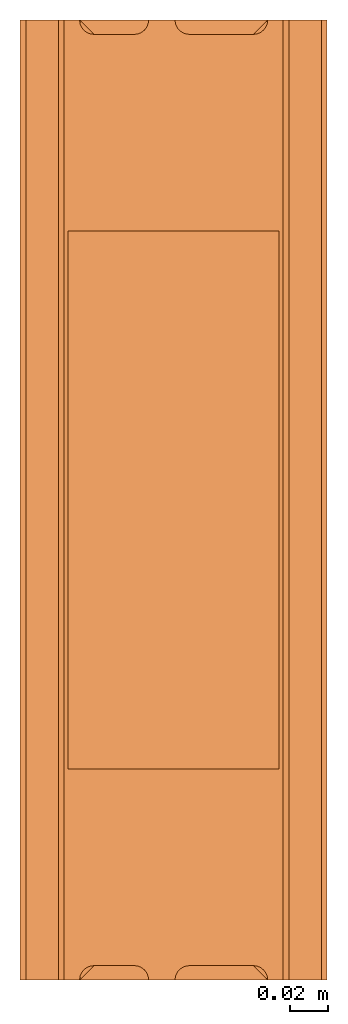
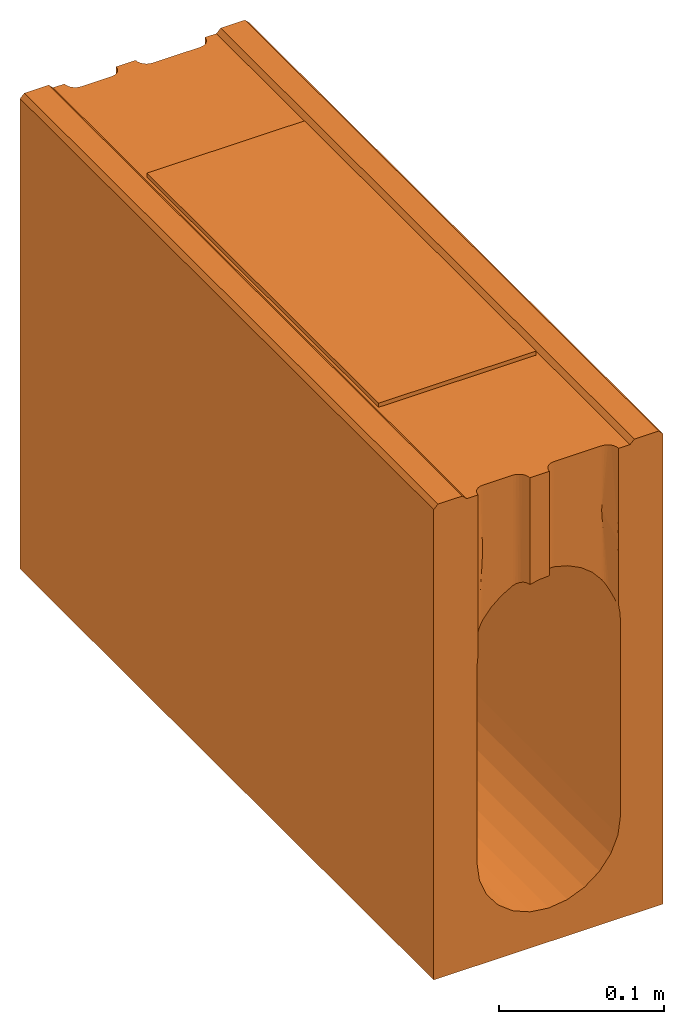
# One storey: 1 proxy.
"""IFC2X3 building model written with IfcOpenShell, lengths in millimetres."""

from ifc_helpers import new_model, entity, si_unit, converted_unit, direction, frame, origin, place, context, subcontext, project, spatial, faceted_brep, source, transform, mapped, material, element, save


model = new_model("IFC2X3")

# Units and contexts
model_context = context("Model", 3, precision=1e-06, world=origin(), true_north=direction((2.0, 6.12303176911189e-17, 1.0)))
context_of_model = context(None, 3, precision=1e-06, world=origin(), true_north=direction((2.0, 6.12303176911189e-17, 1.0)))
body_context = subcontext(model_context, "Body", "Model", "MODEL_VIEW")
ifc_project = project(units=[si_unit("LENGTHUNIT", "METRE", prefix="MILLI"), si_unit("AREAUNIT", "SQUARE_METRE", prefix="MILLI"), si_unit("VOLUMEUNIT", "CUBIC_METRE", prefix="MILLI"), converted_unit("PLANEANGLEUNIT", "DEGREE", entity("IfcRatioMeasure", 0.0174532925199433), si_unit("PLANEANGLEUNIT", "RADIAN"), dimensions=[0, 0, 0, 0, 0, 0, 0]), si_unit("TIMEUNIT", "SECOND")], contexts=[model_context, context_of_model])

# Site, building, storey
site_placement = place(None, origin())
site = spatial("IfcSite", under=ifc_project, at=site_placement, Name="Default", CompositionType="ELEMENT")
building_placement = place(site_placement, origin())
building = spatial("IfcBuilding", under=site, at=building_placement, CompositionType="ELEMENT")
storey_placement = place(building_placement, frame((0.0, 0.0, -300.0)))
storey = spatial("IfcBuildingStorey", under=building, at=storey_placement, Name="T.O. Fnd. Wall", CompositionType="ELEMENT", Elevation=-300.0)

# Proxy
ifc_material = material(Name="Acetal Resin, Black")
shared_shape = source(origin(), body_context, "Body", "Brep", [
    faceted_brep([(-80.0, 0.0, -349.996245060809), (-48.0462913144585, 0.0, -287.937197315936), (-49.7500000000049, 0.0, -274.99624506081), (-43.0512701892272, 0.0, -299.99624506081), (-49.7500000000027, 0.0, -129.996245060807), (-12.6909522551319, 0.0, -323.292536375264), (-24.7500000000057, 0.0, -318.297515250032), (-35.1053390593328, 0.0, -310.351584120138), (0.249999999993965, 0.0, -324.996245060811), (80.0, 0.0, -349.996245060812), (-57.0, 0.0, -3.0), (-60.0, 0.0, 0.0), (-80.0, 0.0, -3.0), (-49.0, 0.0, -121.368528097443), (-77.0, 0.0, 0.0), (-49.5602801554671, 0.0, -125.644694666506), (-49.0, 0.0, -73.5563934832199), (-49.0, 0.0, -3.0), (13.1909522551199, 0.0, -323.292536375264), (35.6053390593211, 0.0, -310.351584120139), (25.2499999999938, 0.0, -318.297515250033), (43.5512701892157, 0.0, -299.996245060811), (48.5462913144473, 0.0, -287.937197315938), (50.249999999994, 0.0, -274.996245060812), (50.2499999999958, 0.0, -129.996245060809), (80.0, 0.0, -3.00030384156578), (49.0, 0.0, -118.88600203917), (49.9333247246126, 0.0, -124.377771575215), (57.0, 0.0, -3.0), (49.0, 0.0, -3.0), (49.0, 0.0, -71.0738683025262), (76.9996961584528, 0.0, 0.0), (60.0, 0.0, 0.0), (0.736679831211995, 500.0, -3.0), (0.736679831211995, 500.0, -79.998613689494), (-6.2125652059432, 500.0, -80.4156515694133), (-13.0, 500.0, -81.7838244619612), (-13.0, 500.0, -3.0), (-13.0, 0.0, -3.0), (-13.0, 0.0, -81.7838244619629), (-6.20548197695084, 0.0, -80.4147288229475), (0.736679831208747, 0.0, -79.9986136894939), (0.736679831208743, 0.0, -3.0), (80.0, 500.0, -349.996245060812), (48.5462913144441, 500.0, -287.937197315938), (50.2499999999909, 500.0, -274.996245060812), (43.5512701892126, 500.0, -299.996245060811), (50.249999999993, 500.0, -129.996245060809), (13.1909522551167, 500.0, -323.292536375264), (25.2499999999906, 500.0, -318.297515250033), (35.605339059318, 500.0, -310.351584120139), (0.249999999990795, 500.0, -324.996245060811), (-80.0, 500.0, -349.996245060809), (57.0, 500.0, -3.0), (76.9996961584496, 500.0, 0.0), (80.0, 500.0, -3.00030384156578), (49.0, 500.0, -118.886002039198), (60.0, 500.0, 0.0), (49.9333606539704, 500.0, -124.378089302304), (49.0, 500.0, -71.073866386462), (49.0, 500.0, -3.0), (-12.6909522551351, 500.0, -323.292536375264), (-35.105339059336, 500.0, -310.351584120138), (-24.7500000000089, 500.0, -318.297515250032), (-43.0512701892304, 500.0, -299.99624506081), (-48.0462913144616, 500.0, -287.937197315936), (-49.7500000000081, 500.0, -274.99624506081), (-49.7500000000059, 500.0, -129.996245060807), (-80.0, 500.0, -3.0), (-49.0, 500.0, -121.368528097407), (-49.5600960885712, 500.0, -125.64258824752), (-57.0, 500.0, -3.0), (-49.0, 500.0, -3.0), (-49.0, 500.0, -73.5563950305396), (-60.0, 500.0, 0.0), (-77.0, 500.0, 0.0), (26.4999999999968, 297.631397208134, -349.996245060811), (13.2350474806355, 303.125920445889, -349.996245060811), (37.8908729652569, 288.89087296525, -349.996245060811), (-1.0, 305.0, -349.99624506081), (54.0, 250.0, -349.996245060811), (52.1259204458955, 264.235047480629, -349.996245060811), (46.6313972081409, 277.49999999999, -349.996245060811), (-15.2350474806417, 303.125920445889, -349.99624506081), (-28.5000000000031, 297.631397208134, -349.99624506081), (-39.8908729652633, 288.890872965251, -349.99624506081), (-48.6313972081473, 277.499999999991, -349.99624506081), (-54.125920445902, 264.235047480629, -349.99624506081), (-56.0, 250.0, -349.99624506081), (46.6313972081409, 222.49999999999, -349.996245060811), (52.1259204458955, 235.764952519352, -349.996245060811), (37.8908729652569, 211.10912703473, -349.996245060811), (26.4999999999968, 202.368602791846, -349.996245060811), (13.2350474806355, 196.874079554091, -349.996245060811), (-1.0, 195.0, -349.99624506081), (-54.125920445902, 235.764952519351, -349.99624506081), (-48.6313972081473, 222.49999999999, -349.99624506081), (-28.5000000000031, 202.368602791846, -349.99624506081), (-15.2350474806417, 196.874079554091, -349.99624506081), (-39.8908729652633, 211.10912703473, -349.99624506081), (48.5987189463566, 497.579630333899, -117.252565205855), (48.5987189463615, 2.42036966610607, -117.252565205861), (47.8724699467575, 496.045050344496, -114.761404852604), (47.8724699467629, 3.95494965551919, -114.761404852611), (46.955393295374, 494.853284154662, -112.146700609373), (46.9553932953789, 5.14671584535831, -112.146700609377), (41.5000000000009, 492.500000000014, -101.739608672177), (43.1259934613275, 492.678378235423, -104.27370271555), (43.1259934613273, 7.32162176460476, -104.273702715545), (41.4999999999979, 7.50000000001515, -101.739608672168), (44.5814205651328, 493.162248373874, -106.872120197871), (44.5814205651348, 6.83775162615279, -106.872120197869), (45.8581398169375, 493.89618010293, -109.504842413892), (45.8581398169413, 6.10381989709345, -109.504842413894), (2.38225354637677, 495.312176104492, -80.0417308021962), (3.57474107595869, 494.12494025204, -80.1069065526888), (3.57474107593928, 5.87505974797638, -80.1069065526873), (2.38225354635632, 4.68782389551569, -80.0417308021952), (0.925928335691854, 498.325809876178, -80.0008140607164), (0.925928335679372, 1.6741901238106, -80.0008140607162), (1.48394545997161, 496.736477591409, -80.011473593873), (1.4839454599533, 3.26352240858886, -80.0114735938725), (27.033943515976, 492.500000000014, -87.7751559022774), (34.9761551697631, 492.500000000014, -94.0227249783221), (34.976155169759, 7.50000000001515, -94.0227249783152), (27.0339435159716, 7.50000000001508, -87.7751559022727), (17.9977594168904, 492.500000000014, -83.2520792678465), (17.9977594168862, 7.50000000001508, -83.2520792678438), (4.99933161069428, 493.234678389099, -80.222317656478), (6.58108774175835, 492.685014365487, -80.3986914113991), (6.58108774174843, 7.31498563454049, -80.3986914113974), (4.99933161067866, 6.76532161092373, -80.2223176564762), (8.2366798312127, 492.500000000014, -80.6382371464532), (8.23667983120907, 7.50000000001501, -80.6382371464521), (-13.7910659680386, 496.647358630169, -82.008241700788), (-13.2013115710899, 498.273979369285, -81.8396025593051), (-13.2013115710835, 1.72602063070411, -81.8396025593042), (-13.7910659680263, 3.35264136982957, -82.0082417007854), (-14.7280173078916, 495.2110318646, -82.2923773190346), (-14.7280173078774, 4.78896813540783, -82.2923773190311), (-17.3714847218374, 493.183667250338, -83.2043304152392), (-15.947929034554, 494.03940859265, -82.6926818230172), (-15.9479290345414, 5.9605914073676, -82.6926818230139), (-17.3714847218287, 6.81633274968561, -83.2043304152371), (-28.5845620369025, 492.500000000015, -89.1481357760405), (-20.499999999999, 492.500000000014, -84.5051745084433), (-20.5000000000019, 7.50000000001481, -84.505174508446), (-28.5845620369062, 7.50000000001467, -89.1481357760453), (-18.9150888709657, 492.669375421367, -83.8150869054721), (-18.9150888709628, 7.33062457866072, -83.8150869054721), (-48.6094823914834, 497.611431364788, -119.37781860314), (-47.9237873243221, 496.128959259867, -116.606464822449), (-47.9237873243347, 3.87104074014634, -116.606464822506), (-48.6094823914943, 2.38856863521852, -119.377818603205), (-47.0369451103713, 494.941122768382, -113.749866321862), (-47.0369451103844, 5.05887723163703, -113.749866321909), (-43.1807877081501, 492.690762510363, -105.221930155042), (-41.4999999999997, 492.500000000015, -102.483747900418), (-41.5000000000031, 7.50000000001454, -102.483747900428), (-43.1807877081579, 7.30923748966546, -105.221930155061), (-35.6666359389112, 492.500000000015, -95.2112588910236), (-35.666635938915, 7.50000000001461, -95.2112588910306), (-45.9520376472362, 493.964325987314, -110.88154607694), (-45.9520376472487, 6.03567401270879, -110.881546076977), (-44.666963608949, 493.201445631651, -108.031127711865), (-44.6669636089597, 6.79855436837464, -108.031127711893), (-48.7444436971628, 498.058857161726, -3.0), (-47.9951905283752, 496.250000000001, -3.0), (-13.2555563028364, 498.058857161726, -3.0), (-14.004809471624, 496.25, -3.0), (0.992236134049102, 498.058857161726, -3.0), (-46.8033008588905, 494.696699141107, -3.0), (-45.249999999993, 493.504809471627, -3.0), (-41.5000000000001, 492.500000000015, -3.0), (-43.4411428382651, 492.755556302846, -3.0), (-43.4411428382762, 7.24444369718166, -3.0), (-41.5000000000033, 7.50000000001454, -3.0), (-45.2500000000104, 6.49519052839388, -3.0), (-15.1966991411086, 494.696699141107, -3.0), (-16.7500000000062, 493.504809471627, -3.0), (2.93337897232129, 494.696699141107, -3.0), (1.74148930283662, 496.25, -3.0), (6.29553699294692, 492.755556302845, -3.0), (-18.5588571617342, 492.755556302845, -3.0), (-20.4999999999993, 492.500000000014, -3.0), (8.23667983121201, 492.500000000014, -3.0), (4.48667983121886, 493.504809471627, -3.0), (-20.5000000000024, 7.50000000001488, -3.0), (48.7444436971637, 498.058857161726, -3.0), (47.9951905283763, 496.25, -3.0), (46.8033008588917, 494.696699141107, -3.0), (45.2499999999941, 493.504809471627, -3.0), (43.4411428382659, 492.755556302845, -3.0), (41.5000000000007, 492.500000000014, -3.0), (43.4411428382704, 7.24444369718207, -3.0), (45.2500000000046, 6.49519052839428, -3.0), (41.4999999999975, 7.50000000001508, -3.0), (8.23667983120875, 7.50000000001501, -3.0), (-18.5588571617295, 7.2444436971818, -3.0), (6.29553699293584, 7.2444436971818, -3.0), (-16.7499999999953, 6.49519052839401, -3.0), (-15.1966991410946, 5.30330085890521, -3.0), (2.93337897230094, 5.30330085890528, -3.0), (4.48667983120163, 6.49519052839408, -3.0), (-48.7444436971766, 1.94114283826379, -3.0), (-47.9951905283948, 3.75000000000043, -3.0), (-46.8033008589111, 5.30330085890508, -3.0), (-13.2555563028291, 1.94114283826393, -3.0), (0.992236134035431, 1.941142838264, -3.0), (-14.0048094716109, 3.75000000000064, -3.0), (1.74148930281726, 3.7500000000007, -3.0), (47.995190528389, 3.75000000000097, -3.0), (48.7444436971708, 1.94114283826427, -3.0), (46.8033008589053, 5.30330085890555, -3.0), (41.5000000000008, 492.500000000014, -50.8121337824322), (-41.5000000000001, 492.500000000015, -50.8121374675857), (41.4999999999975, 7.50000000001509, -50.8121350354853), (-41.5000000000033, 7.50000000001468, -50.812134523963), (-39.8908729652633, 288.89087296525, -339.999933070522), (-28.5000000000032, 297.631397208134, -339.999933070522), (-15.2350474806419, 303.125920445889, -339.999933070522), (-48.6313972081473, 277.499999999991, -339.999933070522), (-56.0, 250.0, -339.999933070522), (-54.125920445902, 264.235047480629, -339.999933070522), (46.6313972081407, 277.49999999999, -339.999933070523), (46.6313972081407, 222.49999999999, -339.999933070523), (37.8908729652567, 288.89087296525, -339.999933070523), (13.2350474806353, 303.125920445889, -339.999933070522), (26.4999999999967, 297.631397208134, -339.999933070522), (-1.0, 305.0, -339.999933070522), (52.1259204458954, 264.235047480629, -339.999933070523), (54.0, 250.0, -339.999933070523), (-54.1259204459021, 235.764952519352, -339.999933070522), (-39.8908729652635, 211.10912703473, -339.999933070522), (-48.6313972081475, 222.49999999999, -339.999933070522), (-28.5000000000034, 202.368602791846, -339.999933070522), (-15.2350474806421, 196.874079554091, -339.999933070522), (26.4999999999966, 202.368602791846, -339.999933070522), (13.2350474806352, 196.874079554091, -339.999933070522), (-1.0, 195.0, -339.999933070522), (52.1259204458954, 235.764952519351, -339.999933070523), (37.8908729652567, 211.10912703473, -339.999933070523)], [[[0, 1, 2]], [[1, 0, 3]], [[0, 2, 4]], [[5, 6, 0]], [[7, 3, 0]], [[6, 7, 0]], [[8, 5, 0, 9]], [[10, 11, 12, 13]], [[11, 14, 12]], [[13, 12, 15]], [[10, 13, 16, 17]], [[4, 15, 12, 0]], [[18, 8, 9]], [[19, 20, 9]], [[18, 9, 20]], [[21, 9, 22]], [[9, 21, 19]], [[23, 22, 9]], [[24, 23, 9, 25]], [[25, 26, 27]], [[28, 29, 30, 26]], [[27, 24, 25]], [[25, 31, 28, 26]], [[31, 32, 28]], [[33, 34, 35]], [[35, 36, 37, 33]], [[38, 39, 40]], [[40, 41, 42, 38]], [[43, 44, 45]], [[44, 43, 46]], [[43, 45, 47]], [[48, 49, 43]], [[50, 46, 43]], [[49, 50, 43]], [[51, 48, 43, 52]], [[53, 54, 55, 56]], [[57, 54, 53]], [[56, 55, 58]], [[53, 56, 59, 60]], [[47, 58, 55, 43]], [[61, 51, 52]], [[62, 63, 52]], [[61, 52, 63]], [[64, 52, 65]], [[52, 64, 62]], [[66, 65, 52]], [[67, 66, 52, 68]], [[68, 69, 70]], [[71, 72, 73, 69]], [[70, 67, 68]], [[68, 74, 71, 69]], [[75, 74, 68]], [[43, 55, 25, 9]], [[43, 76, 77]], [[76, 43, 78]], [[43, 77, 79]], [[80, 81, 43, 9]], [[82, 78, 43]], [[81, 82, 43]], [[79, 83, 52, 43]], [[52, 83, 84]], [[84, 85, 52]], [[86, 87, 52]], [[85, 86, 52]], [[52, 87, 88]], [[89, 90, 9]], [[91, 89, 9]], [[92, 9, 93]], [[9, 92, 91]], [[94, 93, 9, 0]], [[90, 80, 9]], [[95, 96, 0]], [[88, 95, 0]], [[97, 98, 0]], [[99, 0, 96]], [[0, 99, 97]], [[98, 94, 0]], [[88, 0, 52]], [[64, 65, 1, 3]], [[62, 64, 3, 7]], [[61, 63, 6, 5]], [[63, 62, 7, 6]], [[51, 61, 5, 8]], [[65, 66, 2, 1]], [[49, 48, 18, 20]], [[50, 49, 20, 19]], [[44, 46, 21, 22]], [[46, 50, 19, 21]], [[45, 44, 22, 23]], [[8, 18, 48, 51]], [[2, 66, 67, 4]], [[58, 47, 24]], [[100, 56, 26, 101]], [[27, 56, 58]], [[102, 100, 101, 103]], [[104, 102, 103, 105]], [[106, 107, 108, 109]], [[107, 110, 111, 108]], [[110, 112, 113, 111]], [[112, 104, 105, 113]], [[114, 115, 116, 117]], [[34, 118, 119, 41]], [[118, 120, 121, 119]], [[120, 114, 117, 121]], [[122, 123, 124, 125]], [[126, 122, 125, 127]], [[128, 129, 130, 131]], [[129, 132, 133, 130]], [[123, 106, 109, 124]], [[115, 128, 131, 116]], [[132, 126, 127, 133]], [[27, 58, 24]], [[56, 27, 26]], [[41, 40, 34]], [[36, 35, 39]], [[134, 135, 136, 137]], [[135, 36, 39, 136]], [[138, 134, 137, 139]], [[140, 141, 142, 143]], [[144, 145, 146, 147]], [[145, 148, 149, 146]], [[148, 140, 143, 149]], [[141, 138, 139, 142]], [[150, 151, 152, 153]], [[70, 69, 13]], [[69, 150, 153, 13]], [[151, 154, 155, 152]], [[156, 157, 158, 159]], [[160, 144, 147, 161]], [[154, 162, 163, 155]], [[162, 164, 165, 163]], [[164, 156, 159, 165]], [[15, 67, 70]], [[157, 160, 161, 158]], [[39, 35, 40]], [[13, 15, 70]], [[15, 4, 67]], [[34, 40, 35]], [[47, 45, 23, 24]], [[68, 52, 0, 12]], [[71, 166, 72]], [[166, 71, 167]], [[37, 168, 33]], [[168, 169, 170, 33]], [[71, 171, 167]], [[172, 171, 71, 10]], [[173, 174, 175, 176]], [[174, 172, 177, 175]], [[178, 179, 180, 181]], [[182, 183, 184, 185]], [[179, 183, 186, 180]], [[184, 173, 176, 187]], [[169, 178, 181, 170]], [[53, 60, 188]], [[188, 189, 53]], [[53, 189, 190]], [[186, 183, 182]], [[53, 190, 191, 28]], [[192, 193, 194, 195]], [[191, 192, 195]], [[196, 193, 185, 197]], [[185, 184, 187, 197]], [[187, 198, 199, 197]], [[200, 201, 202, 203]], [[198, 200, 203, 199]], [[204, 205, 10]], [[10, 17, 204]], [[205, 206, 10]], [[207, 38, 42, 208]], [[209, 207, 208]], [[10, 206, 177, 172]], [[210, 201, 209, 208]], [[196, 194, 193]], [[211, 212, 28]], [[29, 28, 212]], [[211, 28, 213]], [[195, 213, 28, 191]], [[202, 201, 210]], [[182, 185, 129]], [[186, 182, 128]], [[185, 132, 129]], [[186, 128, 115]], [[128, 182, 129]], [[115, 180, 186]], [[181, 180, 114]], [[170, 181, 120]], [[33, 170, 118]], [[181, 114, 120]], [[33, 118, 34]], [[118, 170, 120]], [[115, 114, 180]], [[191, 190, 214]], [[59, 112, 214]], [[59, 56, 100]], [[59, 100, 102]], [[102, 104, 59]], [[106, 214, 107]], [[214, 190, 59]], [[110, 107, 214]], [[189, 59, 190]], [[214, 193, 192]], [[60, 59, 188]], [[112, 110, 214]], [[112, 59, 104]], [[59, 189, 188]], [[192, 191, 214]], [[193, 214, 123, 122]], [[126, 185, 193, 122]], [[126, 132, 185]], [[172, 215, 171]], [[167, 171, 73]], [[172, 174, 215]], [[173, 215, 174]], [[167, 73, 166]], [[215, 156, 164]], [[157, 156, 215]], [[73, 171, 215]], [[73, 215, 162]], [[166, 73, 72]], [[73, 150, 69]], [[151, 150, 73]], [[162, 154, 73]], [[151, 73, 154]], [[164, 162, 215]], [[134, 169, 168]], [[135, 168, 37]], [[37, 36, 135]], [[169, 134, 138]], [[134, 168, 135]], [[138, 178, 169]], [[179, 178, 141]], [[183, 179, 140]], [[184, 183, 148]], [[179, 141, 140]], [[184, 148, 145]], [[148, 183, 140]], [[138, 141, 178]], [[173, 144, 160]], [[160, 157, 215, 173]], [[173, 184, 145, 144]], [[196, 125, 124]], [[124, 109, 216, 196]], [[197, 133, 127, 196]], [[125, 196, 127]], [[212, 211, 30]], [[30, 211, 213]], [[213, 195, 216]], [[195, 194, 216]], [[196, 216, 194]], [[216, 108, 111]], [[109, 108, 216]], [[30, 213, 216]], [[30, 216, 113]], [[30, 29, 212]], [[30, 101, 26]], [[103, 101, 30]], [[113, 105, 30]], [[105, 103, 30]], [[111, 113, 216]], [[208, 42, 119]], [[210, 208, 121]], [[42, 41, 119]], [[210, 121, 117]], [[121, 208, 119]], [[117, 202, 210]], [[203, 202, 116]], [[199, 203, 131]], [[197, 199, 130]], [[203, 116, 131]], [[197, 130, 133]], [[130, 199, 131]], [[117, 116, 202]], [[176, 217, 161, 147]], [[146, 187, 176, 147]], [[198, 187, 149]], [[200, 198, 143]], [[187, 146, 149]], [[200, 143, 142]], [[143, 198, 149]], [[142, 201, 200]], [[209, 201, 139]], [[207, 209, 137]], [[38, 207, 136]], [[209, 139, 137]], [[38, 136, 39]], [[136, 207, 137]], [[142, 139, 201]], [[17, 16, 204]], [[217, 177, 206]], [[16, 163, 217]], [[16, 13, 153]], [[153, 152, 16]], [[16, 152, 155]], [[217, 206, 16]], [[16, 205, 204]], [[158, 217, 159]], [[165, 159, 217]], [[217, 176, 175]], [[206, 205, 16]], [[163, 165, 217]], [[163, 16, 155]], [[175, 177, 217]], [[218, 219, 220, 221]], [[220, 222, 223, 221]], [[224, 225, 220, 226]], [[227, 228, 226, 220]], [[220, 229, 227]], [[224, 230, 231]], [[222, 220, 232]], [[233, 234, 232, 220]], [[233, 220, 225, 235]], [[236, 235, 237, 238]], [[239, 236, 238]], [[231, 240, 225, 224]], [[225, 241, 237, 235]], [[224, 82, 81, 230]], [[81, 80, 231, 230]], [[228, 76, 78, 226]], [[226, 78, 82, 224]], [[227, 77, 76, 228]], [[77, 227, 229, 79]], [[220, 83, 79, 229]], [[219, 84, 83, 220]], [[221, 86, 85, 218]], [[218, 85, 84, 219]], [[223, 87, 86, 221]], [[87, 223, 222, 88]], [[234, 96, 95, 232]], [[95, 88, 222, 232]], [[235, 97, 99, 233]], [[233, 99, 96, 234]], [[236, 98, 97, 235]], [[98, 236, 239, 94]], [[238, 93, 94, 239]], [[237, 92, 93, 238]], [[225, 89, 91, 241]], [[241, 91, 92, 237]], [[240, 90, 89, 225]], [[90, 240, 231, 80]], [[14, 75, 68, 12]], [[74, 75, 14, 11]], [[10, 71, 74, 11]], [[32, 57, 53, 28]], [[54, 57, 32, 31]], [[25, 55, 54, 31]], [[123, 214, 106]], [[161, 217, 158]]]),
    faceted_brep([(55.0, 110.0, -4.0), (-55.0, 110.0, -4.0), (-55.0, 250.0, -4.0), (-55.0, 390.0, -4.0), (55.0, 390.0, -4.0), (55.0, 390.0, 0.0), (-55.0, 390.0, 0.0), (-55.0, 250.0, 0.0), (-55.0, 110.0, 0.0), (55.0, 110.0, 0.0)], [[[0, 1, 2]], [[2, 3, 4, 0]], [[5, 6, 7]], [[7, 8, 9, 5]], [[7, 6, 3, 2]], [[8, 7, 2, 1]], [[9, 8, 1, 0]], [[5, 9, 0, 4]], [[6, 5, 4, 3]]]),
])
proxy_placement = place(storey_placement, frame((-5682.99544306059, -10247.1166238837, 300.0)))
element("IfcBuildingElementProxy", 1, at=proxy_placement, inside=storey, material=ifc_material, Name="Civil-Drainage-Channel-ACO-KerbDrain-HB480(amar):32303 - Junction access unit - 500mm LG:32303 - Junction access unit - 500mm LG", ObjectType="32303 - Junction access unit - 500mm LG", CompositionType="ELEMENT", context=body_context, shape_type="MappedRepresentation", body=[
    mapped(shared_shape, transform((0.0, 0.0, 0.0), scale=1.0)),
])

save(model, "model.ifc")
